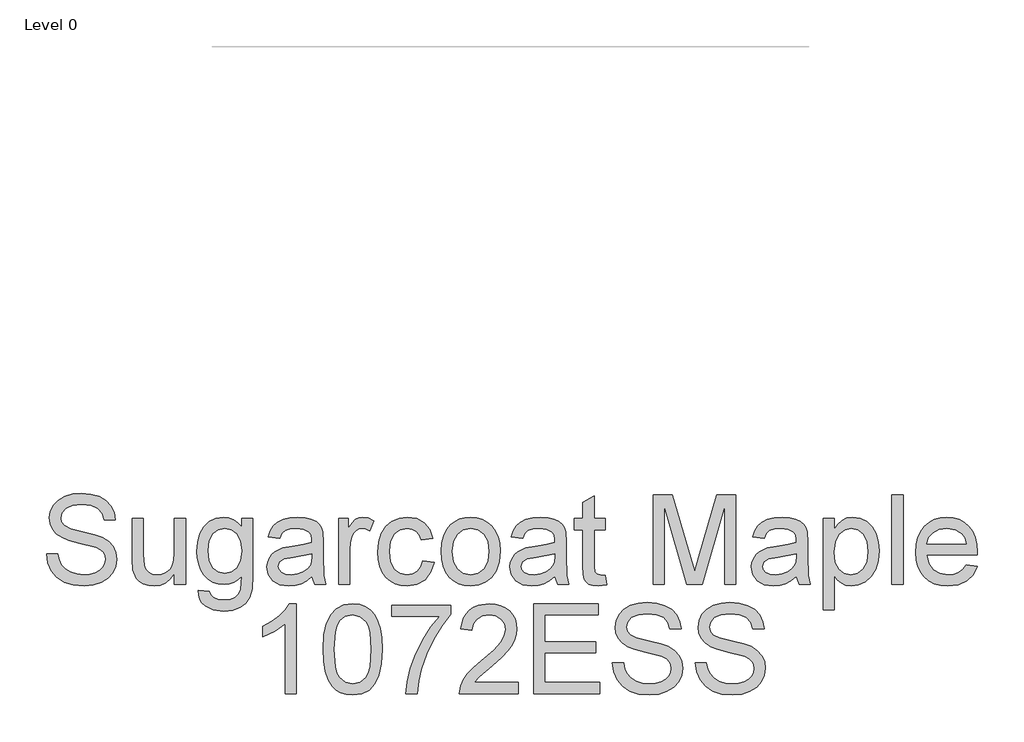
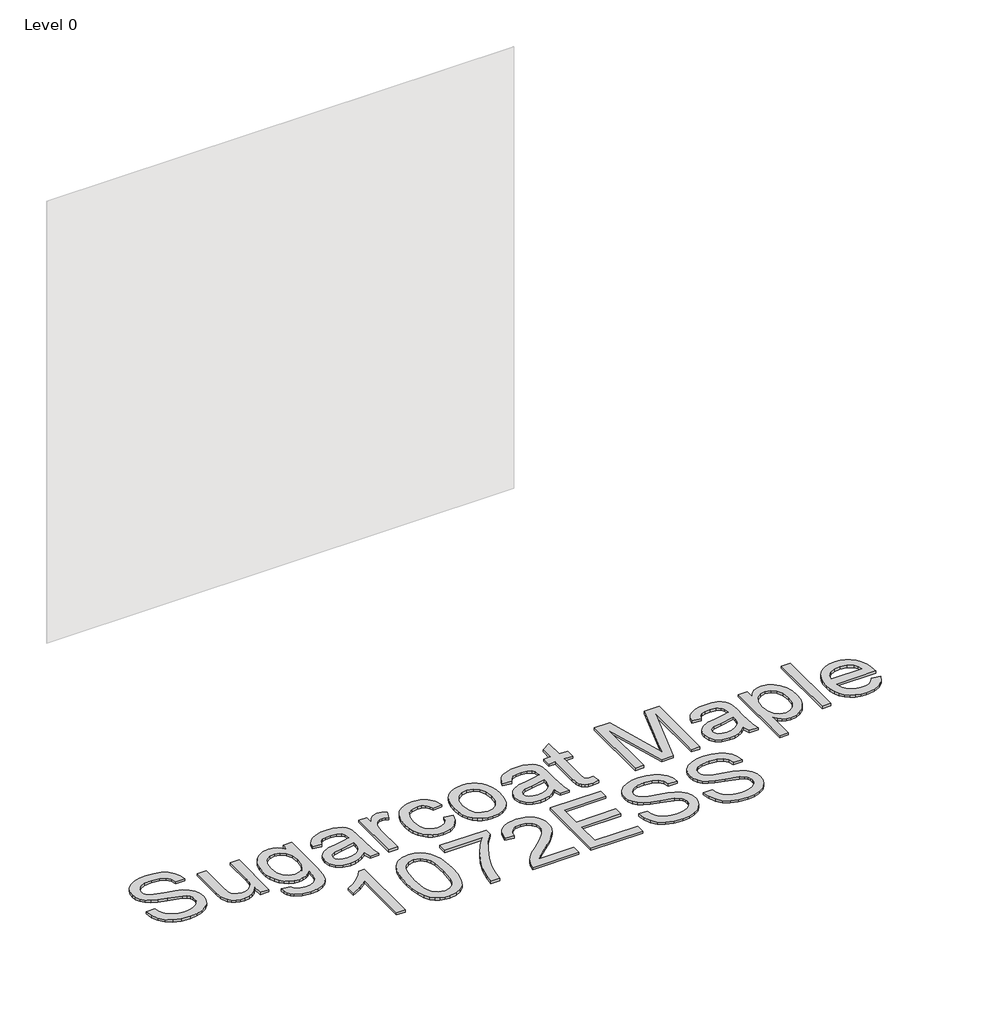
# One storey, part 41 of 43: 1 proxy.
"""IFC4 building model written with IfcOpenShell, lengths in millimetres."""

from ifc_helpers import new_model, si_unit, origin, origin_with_axes, place, context, project, spatial, polyline, outline, extrude, element, save

model = new_model("IFC4")

# Units and contexts
model_context = context("Model", 3, world=origin())
ifc_project = project(units=[si_unit("LENGTHUNIT", "METRE", prefix="MILLI")], contexts=[model_context])

# Site, building, storey
site = spatial("IfcSite", under=ifc_project)
building = spatial("IfcBuilding", under=site)
storey = spatial("IfcBuildingStorey", under=building, Name="Level 0", Elevation=0.0)

# Proxy
placement = place(None, origin())
element("IfcBuildingElementProxy", 1, Name="300mm Arial", ObjectType="300mm Arial", at=placement, inside=storey, context=model_context, shape_type="SweptSolid", body=[
    extrude(outline(polyline([(35993.0539513, -6900.2649241), (36030.7250676, -6900.2649241), (36035.047681, -6921.1698185), (36042.8651734, -6937.9728286), (36055.0604616, -6951.308551), (36072.5164623, -6961.8115819), (36093.853618, -6968.6265959), (36117.6923713, -6970.8982672), (36138.6800391, -6969.1784189), (36157.0557447, -6964.0188739), (36171.9457685, -6955.8518936), (36182.4763906, -6945.1097394), (36188.7395816, -6932.7764955), (36190.8273119, -6919.8362463), (36189.2638134, -6907.2270909), (36184.573318, -6896.3285868), (36175.0451743, -6887.0303694), (36158.9687311, -6879.222074), (36104.1175256, -6864.837888), (36068.1110754, -6855.3189414), (36045.0724654, -6846.2598472), (36026.3196807, -6833.5863125), (36013.0299436, -6818.2272392), (36005.1112837, -6800.5137211), (36002.4717304, -6780.7768521), (36005.7366831, -6758.7131294), (36015.5315412, -6738.1393289), (36031.5987873, -6720.7017223), (36053.6809041, -6708.0465817), (36080.1868019, -6700.3486509), (36109.525391, -6697.782674), (36141.3103954, -6700.4682126), (36169.1222742, -6708.5248283), (36191.9677461, -6721.7869742), (36208.8535297, -6740.0891034), (36219.5405016, -6762.2907818), (36223.7895387, -6787.2515752), (36186.1184224, -6787.2515752), (36179.2022409, -6764.7739853), (36164.7812666, -6748.5503893), (36142.2484944, -6738.7279401), (36110.996919, -6735.4537903), (36079.0095795, -6738.6911519), (36057.0654185, -6748.4032365), (36044.3734896, -6762.695452), (36040.1428467, -6779.6732061), (36043.1410849, -6794.1493626), (36052.1357997, -6805.7928278), (36073.399379, -6816.2038882), (36113.6456693, -6826.8356779), (36155.1795466, -6836.9340387), (36180.3058868, -6845.7448125), (36201.7809983, -6859.4116286), (36216.7629926, -6876.2790181), (36225.5645693, -6896.1630399), (36228.4984282, -6918.8797531), (36225.1231109, -6942.102304), (36214.997159, -6963.9452975), (36198.5344397, -6982.7440675), (36176.1488203, -6996.8339479), (36149.2290553, -7005.6355246), (36119.1638992, -7008.5693835), (36082.2561381, -7005.4055984), (36051.8782823, -6995.9142429), (36027.6808441, -6980.0585289), (36009.3143355, -6957.8016682), (35997.5237175, -6930.6887651), (35993.0539513, -6900.2649241)])), origin_with_axes(), (0.0, 0.0, 1.0), 10.0),
    extrude(outline(polyline([(36421.5628993, -7003.860494), (36421.5628993, -6965.8214957), (36407.9328714, -6984.5236966), (36392.0587633, -6997.8824116), (36373.940575, -7005.8976405), (36353.5783066, -7008.5693835), (36335.2301921, -7006.6931853), (36318.1512704, -7001.0645908), (36303.8222667, -6992.6033049), (36293.723906, -6982.2290327), (36282.5035051, -6954.4907302), (36280.2962131, -6919.4683643), (36280.2962131, -6782.5426857), (36317.9673294, -6782.5426857), (36317.9673294, -6901.7364521), (36320.2481978, -6940.1433324), (36325.7388366, -6952.9548229), (36335.1474186, -6962.6944987), (36347.8485445, -6968.8473251), (36363.2168148, -6970.8982672), (36379.468002, -6968.8013398), (36394.6707254, -6962.5105577), (36407.2063044, -6952.605335), (36415.4560582, -6939.6650858), (36420.036189, -6921.9423707), (36421.5628993, -6897.6897502), (36421.5628993, -6782.5426857), (36459.2340156, -6782.5426857), (36459.2340156, -7003.860494), (36421.5628993, -7003.860494)])), origin_with_axes(), (0.0, 0.0, 1.0), 10.0),
    extrude(outline(polyline([(36501.6140214, -7022.6960521), (36539.2851377, -7027.4049417), (36543.4422043, -7039.1771655), (36551.49882, -7047.2705694), (36567.3361399, -7053.5613515), (36588.0662903, -7055.6582789), (36610.1759982, -7053.28544), (36626.6203234, -7046.1669234), (36638.0246652, -7034.7625816), (36645.0144231, -7019.532267), (36647.5895971, -6975.6071568), (36635.0540181, -6987.9679918), (36621.0653053, -6996.7971597), (36605.6234585, -7002.0946604), (36588.7284779, -7003.860494), (36568.0742031, -7001.8049533), (36549.8893362, -6995.6383314), (36534.1738773, -6985.3606281), (36520.9278262, -6970.9718436), (36510.4178974, -6953.708981), (36502.9108055, -6934.8090435), (36498.4065503, -6914.2720311), (36496.9051319, -6892.0979438), (36499.5998675, -6861.6832999), (36507.6840743, -6833.7150712), (36520.8726439, -6810.0142737), (36538.8804675, -6792.4019232), (36561.091343, -6781.4758279), (36586.8890679, -6777.8337961), (36604.506017, -6779.8939353), (36620.4950882, -6786.0743528), (36634.8562816, -6796.3750487), (36647.5895971, -6810.7960229), (36647.5895971, -6782.5426857), (36685.2607134, -6782.5426857), (36685.2607134, -6973.620594), (36682.6855395, -7017.7388422), (36674.9600176, -7046.7923228), (36661.6518864, -7066.0601423), (36642.3288846, -7080.8214074), (36617.4140765, -7090.2023982), (36587.3305263, -7093.3293952), (36552.2805692, -7088.9240083), (36524.6802225, -7075.7078476), (36514.2852569, -7065.7865301), (36506.9759015, -7053.644125), (36502.7521564, -7039.2806323), (36501.6140214, -7022.6960521)]), holes=[polyline([(36534.5762482, -6889.5227699), (36538.595359, -6924.0760863), (36550.6526914, -6947.8320661), (36568.7800767, -6961.6000498), (36591.0093463, -6966.1893777), (36613.0730689, -6961.6276409), (36631.2924247, -6947.9424307), (36643.515304, -6924.4899535), (36647.5895971, -6890.6264159), (36643.3957424, -6857.9676917), (36630.8141781, -6834.4508352), (36612.3281079, -6820.2413931), (36590.4207351, -6815.5049125), (36568.9088354, -6820.1678167), (36550.8734206, -6834.1565296), (36538.6505413, -6857.3238983), (36534.5762482, -6889.5227699)])]), origin_with_axes(), (0.0, 0.0, 1.0), 10.0),
    extrude(outline(polyline([(36883.034074, -6975.6071568), (36865.0354474, -6991.0398064), (36846.5033919, -7001.1381672), (36827.0148432, -7006.7115794), (36806.146737, -7008.5693835), (36774.6652353, -7004.0996173), (36751.4426844, -6990.6903186), (36737.1228777, -6970.3280501), (36732.3496088, -6944.9993748), (36734.1522306, -6929.3827841), (36739.5600959, -6915.2009331), (36747.9018202, -6903.0608273), (36758.5060187, -6893.5694718), (36784.8831577, -6881.2086368), (36817.4775025, -6875.5432541), (36855.9947474, -6869.5835657), (36882.8133448, -6862.5938078), (36883.034074, -6854.2060983), (36880.440506, -6837.3938912), (36872.6598018, -6826.3942195), (36855.2589834, -6818.2272392), (36831.0155599, -6815.5049125), (36808.5747582, -6817.3167313), (36792.9029852, -6822.7521878), (36782.2160133, -6832.8045633), (36774.7296146, -6848.4671392), (36737.0584983, -6843.7582497), (36743.5976008, -6823.156858), (36753.3556707, -6806.9700502), (36767.243216, -6794.590821), (36786.1707447, -6785.4121652), (36809.3197192, -6779.7283884), (36835.8716022, -6777.8337961), (36861.3382334, -6779.5076592), (36881.5257578, -6784.5292485), (36896.7468754, -6792.0800264), (36907.3142857, -6801.3414556), (36914.3224377, -6812.7917827), (36918.8657804, -6826.9092543), (36920.7051903, -6859.8714811), (36920.7051903, -6906.7396473), (36922.6181767, -6972.1858542), (36930.1229694, -7003.860494), (36892.4518531, -7003.860494), (36883.034074, -6975.6071568)]), holes=[polyline([(36883.034074, -6900.2649241), (36822.2599684, -6911.8164188), (36789.8495647, -6917.9232599), (36775.171073, -6927.8560738), (36770.0207251, -6942.3506244), (36772.8258253, -6953.5526311), (36781.241126, -6962.7312869), (36795.082686, -6968.8565221), (36814.1665645, -6970.8982672), (36834.4000743, -6968.64499), (36852.2791392, -6961.8851583), (36866.7736898, -6951.9247533), (36876.8536565, -6940.069756), (36881.3234228, -6927.8560738), (36882.8133448, -6910.933502), (36883.034074, -6900.2649241)])]), origin_with_axes(), (0.0, 0.0, 1.0), 10.0),
    extrude(outline(polyline([(36972.5029753, -7003.860494), (36972.5029753, -6782.5426857), (37005.465202, -6782.5426857), (37005.465202, -6815.2841833), (37017.6420961, -6796.3014723), (37028.8624969, -6785.1178596), (37040.119686, -6779.654812), (37052.4069446, -6777.8337961), (37071.1689264, -6780.7400639), (37090.2252137, -6789.4588672), (37077.6436495, -6823.2304343), (37064.3998977, -6817.4362929), (37051.1561458, -6815.5049125), (37039.9081538, -6817.3627165), (37029.8557783, -6822.9361288), (37021.7347833, -6831.8020848), (37016.2809327, -6843.5375205), (37011.7008018, -6864.5803706), (37010.1740916, -6887.5362071), (37010.1740916, -7003.860494), (36972.5029753, -7003.860494)])), origin_with_axes(), (0.0, 0.0, 1.0), 10.0),
    extrude(outline(polyline([(37255.0363476, -6923.8093718), (37292.7074639, -6928.5182614), (37282.2044329, -6962.0231141), (37262.4675639, -6987.3425924), (37235.3546608, -7003.2626857), (37202.7235278, -7008.5693835), (37181.595605, -7006.7184772), (37162.6519815, -7001.1657584), (37145.8926574, -6991.9112269), (37131.3176326, -6978.9548829), (37119.5201168, -6962.5404481), (37111.0933199, -6942.9116444), (37106.0372417, -6920.0684718), (37104.3518823, -6894.0109302), (37107.2305589, -6860.4876834), (37115.8665888, -6831.4342028), (37130.3979276, -6807.9725286), (37150.9625311, -6791.2247008), (37175.5646395, -6781.1815223), (37202.208493, -6777.8337961), (37234.0394827, -6782.4323211), (37259.4877197, -6796.2278959), (37277.7438637, -6818.4847566), (37287.9985743, -6848.4671392), (37250.327458, -6853.1760288), (37243.49405, -6836.7409006), (37232.8530632, -6824.9594797), (37218.9931091, -6817.8685543), (37202.5027986, -6815.5049125), (37178.1582076, -6820.1586197), (37158.8352058, -6834.1197414), (37146.2260504, -6858.1424357), (37142.0229986, -6892.9808606), (37146.1340799, -6928.2883351), (37158.4673238, -6952.3938029), (37177.4408377, -6966.2721511), (37201.4727291, -6970.8982672), (37220.9796718, -6968.0103936), (37236.9733416, -6959.3467726), (37248.6076097, -6944.6866751), (37255.0363476, -6923.8093718)])), origin_with_axes(), (0.0, 0.0, 1.0), 10.0),
    extrude(outline(polyline([(37316.2519115, -6893.2015898), (37318.2890581, -6864.5389839), (37324.4004977, -6839.8403064), (37334.5862305, -6819.1055575), (37348.8462563, -6802.334737), (37363.2028512, -6791.6155754), (37379.0493681, -6783.9590314), (37396.3858071, -6779.3651049), (37415.2121683, -6777.8337961), (37435.9952017, -6779.698498), (37454.7870739, -6785.2926036), (37471.5877847, -6794.6161129), (37486.3973343, -6807.669026), (37498.4845571, -6824.0098843), (37507.1182877, -6843.1972296), (37512.298526, -6865.2310619), (37514.0252722, -6890.1113811), (37510.9718516, -6928.1687735), (37501.8115899, -6957.1394806), (37486.8112016, -6978.8353213), (37466.237401, -6995.0681143), (37441.8008395, -7005.1940662), (37415.2121683, -7008.5693835), (37394.1256321, -7006.7115794), (37375.159016, -7001.1381672), (37358.3123199, -6991.8491468), (37343.5855438, -6978.8445183), (37331.6270797, -6962.3450108), (37323.0853196, -6942.5713536), (37317.9602636, -6919.5235466), (37316.2519115, -6893.2015898)]), holes=[polyline([(37353.9230279, -6893.1280134), (37358.2824295, -6927.2214773), (37371.3606344, -6951.5108861), (37391.0423212, -6966.0514219), (37415.2121683, -6970.8982672), (37439.2716507, -6966.0238308), (37458.9165493, -6951.4005215), (37471.9947542, -6926.789216), (37476.3541558, -6891.950791), (37471.9671631, -6858.8506085), (37458.8061847, -6834.8922936), (37439.133695, -6820.3517577), (37415.2121683, -6815.5049125), (37391.0423212, -6820.3333636), (37371.3606344, -6834.8187172), (37358.2824295, -6859.0529436), (37353.9230279, -6893.1280134)])]), origin_with_axes(), (0.0, 0.0, 1.0), 10.0),
    extrude(outline(polyline([(37697.6719641, -6975.6071568), (37679.6733375, -6991.0398064), (37661.141282, -7001.1381672), (37641.6527333, -7006.7115794), (37620.7846272, -7008.5693835), (37589.3031254, -7004.0996173), (37566.0805745, -6990.6903186), (37551.7607678, -6970.3280501), (37546.9874989, -6944.9993748), (37548.7901207, -6929.3827841), (37554.197986, -6915.2009331), (37562.5397103, -6903.0608273), (37573.1439088, -6893.5694718), (37599.5210478, -6881.2086368), (37632.1153926, -6875.5432541), (37670.6326375, -6869.5835657), (37697.451235, -6862.5938078), (37697.6719641, -6854.2060983), (37695.0783961, -6837.3938912), (37687.2976919, -6826.3942195), (37669.8968735, -6818.2272392), (37645.65345, -6815.5049125), (37623.2126483, -6817.3167313), (37607.5408753, -6822.7521878), (37596.8539034, -6832.8045633), (37589.3675048, -6848.4671392), (37551.6963885, -6843.7582497), (37558.2354909, -6823.156858), (37567.9935608, -6806.9700502), (37581.8811062, -6794.590821), (37600.8086348, -6785.4121652), (37623.9576094, -6779.7283884), (37650.5094924, -6777.8337961), (37675.9761235, -6779.5076592), (37696.163648, -6784.5292485), (37711.3847655, -6792.0800264), (37721.9521758, -6801.3414556), (37728.9603278, -6812.7917827), (37733.5036705, -6826.9092543), (37735.3430805, -6859.8714811), (37735.3430805, -6906.7396473), (37737.2560668, -6972.1858542), (37744.7608595, -7003.860494), (37707.0897432, -7003.860494), (37697.6719641, -6975.6071568)]), holes=[polyline([(37697.6719641, -6900.2649241), (37636.8978585, -6911.8164188), (37604.4874548, -6917.9232599), (37589.8089632, -6927.8560738), (37584.6586152, -6942.3506244), (37587.4637154, -6953.5526311), (37595.8790161, -6962.7312869), (37609.7205762, -6968.8565221), (37628.8044547, -6970.8982672), (37649.0379644, -6968.64499), (37666.9170294, -6961.8851583), (37681.41158, -6951.9247533), (37691.4915466, -6940.069756), (37695.9613129, -6927.8560738), (37697.451235, -6910.933502), (37697.6719641, -6900.2649241)])]), origin_with_axes(), (0.0, 0.0, 1.0), 10.0),
    extrude(outline(polyline([(37867.1919875, -6972.4433716), (37871.9008771, -7004.96414), (37843.7211162, -7008.5693835), (37825.6397162, -7007.005885), (37812.156841, -7002.3153896), (37802.6286974, -6995.0865084), (37796.4114917, -6985.9078526), (37792.9901891, -6970.1441091), (37791.8497549, -6943.1599648), (37791.8497549, -6820.213802), (37763.5964177, -6820.213802), (37763.5964177, -6782.5426857), (37791.8497549, -6782.5426857), (37791.8497549, -6728.758338), (37829.5208712, -6706.6118419), (37829.5208712, -6782.5426857), (37867.1919875, -6782.5426857), (37867.1919875, -6820.213802), (37829.5208712, -6820.213802), (37829.5208712, -6942.0563188), (37831.507434, -6961.4804881), (37837.9453689, -6968.3598814), (37850.7844505, -6970.8982672), (37867.1919875, -6972.4433716)])), origin_with_axes(), (0.0, 0.0, 1.0), 10.0),
    extrude(outline(polyline([(38027.2942318, -7003.860494), (38027.2942318, -6702.4915635), (38092.1150394, -6702.4915635), (38153.7720618, -6914.9066275), (38166.2064732, -6959.2731962), (38179.6709542, -6911.2278076), (38240.297907, -6702.4915635), (38305.1187146, -6702.4915635), (38305.1187146, -7003.860494), (38267.4475983, -7003.860494), (38267.4475983, -6740.1626798), (38191.7374837, -7003.860494), (38140.6754627, -7003.860494), (38064.9653481, -6740.1626798), (38064.9653481, -7003.860494), (38027.2942318, -7003.860494)])), origin_with_axes(), (0.0, 0.0, 1.0), 10.0),
    extrude(outline(polyline([(38507.6009647, -6975.6071568), (38489.6023381, -6991.0398064), (38471.0702826, -7001.1381672), (38451.5817339, -7006.7115794), (38430.7136277, -7008.5693835), (38399.232126, -7004.0996173), (38376.0095751, -6990.6903186), (38361.6897684, -6970.3280501), (38356.9164995, -6944.9993748), (38358.7191213, -6929.3827841), (38364.1269866, -6915.2009331), (38372.4687109, -6903.0608273), (38383.0729094, -6893.5694718), (38409.4500484, -6881.2086368), (38442.0443932, -6875.5432541), (38480.5616381, -6869.5835657), (38507.3802355, -6862.5938078), (38507.6009647, -6854.2060983), (38505.0073967, -6837.3938912), (38497.2266925, -6826.3942195), (38479.8258741, -6818.2272392), (38455.5824506, -6815.5049125), (38433.1416489, -6817.3167313), (38417.4698759, -6822.7521878), (38406.782904, -6832.8045633), (38399.2965053, -6848.4671392), (38361.625389, -6843.7582497), (38368.1644915, -6823.156858), (38377.9225614, -6806.9700502), (38391.8101067, -6794.590821), (38410.7376354, -6785.4121652), (38433.8866099, -6779.7283884), (38460.4384929, -6777.8337961), (38485.9051241, -6779.5076592), (38506.0926485, -6784.5292485), (38521.3137661, -6792.0800264), (38531.8811764, -6801.3414556), (38538.8893284, -6812.7917827), (38543.4326711, -6826.9092543), (38545.272081, -6859.8714811), (38545.272081, -6906.7396473), (38547.1850674, -6972.1858542), (38554.6898601, -7003.860494), (38517.0187438, -7003.860494), (38507.6009647, -6975.6071568)]), holes=[polyline([(38507.6009647, -6900.2649241), (38446.8268591, -6911.8164188), (38414.4164554, -6917.9232599), (38399.7379637, -6927.8560738), (38394.5876158, -6942.3506244), (38397.392716, -6953.5526311), (38405.8080167, -6962.7312869), (38419.6495767, -6968.8565221), (38438.7334552, -6970.8982672), (38458.966965, -6968.64499), (38476.8460299, -6961.8851583), (38491.3405805, -6951.9247533), (38501.4205472, -6940.069756), (38505.8903135, -6927.8560738), (38507.3802355, -6910.933502), (38507.6009647, -6900.2649241)])]), origin_with_axes(), (0.0, 0.0, 1.0), 10.0),
    extrude(outline(polyline([(38597.069866, -7088.6205057), (38597.069866, -6782.5426857), (38634.7409823, -6782.5426857), (38634.7409823, -6819.478038), (38647.0282409, -6801.2586822), (38660.7870275, -6788.2448566), (38676.8266825, -6780.4365613), (38695.9565463, -6777.8337961), (38721.4323744, -6781.4758279), (38743.7076292, -6792.4019232), (38761.8442116, -6809.9498943), (38774.9040224, -6833.4575538), (38782.7950912, -6861.2142504), (38785.4254475, -6891.5093327), (38782.4548004, -6923.7265984), (38773.542859, -6952.5409557), (38758.974732, -6976.4900735), (38739.0355279, -6994.1116211), (38715.8129769, -7004.9549429), (38691.3948095, -7008.5693835), (38674.0767646, -7006.1505594), (38658.6165237, -6998.894087), (38645.381969, -6987.9404006), (38634.7409823, -6974.4299344), (38634.7409823, -7088.6205057), (38597.069866, -7088.6205057)]), holes=[polyline([(38634.7409823, -6894.9674234), (38638.8152754, -6928.7389906), (38651.0381546, -6952.3570147), (38669.0735695, -6966.2629541), (38690.5854691, -6970.8982672), (38712.4468567, -6966.0974072), (38730.942124, -6951.6948271), (38743.5512794, -6927.2122803), (38747.7543312, -6892.1715202), (38743.6524469, -6858.5838941), (38731.3467942, -6834.6347762), (38713.3389705, -6820.2873784), (38692.1305735, -6815.5049125), (38670.839403, -6820.590881), (38652.1418006, -6835.8487868), (38639.0911869, -6860.8003831), (38634.7409823, -6894.9674234)])]), origin_with_axes(), (0.0, 0.0, 1.0), 10.0),
    extrude(outline(polyline([(38827.8054533, -7003.860494), (38827.8054533, -6702.4915635), (38865.4765696, -6702.4915635), (38865.4765696, -7003.860494), (38827.8054533, -7003.860494)])), origin_with_axes(), (0.0, 0.0, 1.0), 10.0),
    extrude(outline(polyline([(39076.9351405, -6937.9360404), (39113.8704928, -6942.64493), (39100.5623616, -6970.4752029), (39079.3263734, -6991.2789297), (39050.6407749, -7004.2467701), (39014.9838125, -7008.5693835), (38991.6095102, -7006.7046817), (38970.7827908, -7001.1105761), (38952.5036541, -6991.7870668), (38936.7721003, -6978.7341537), (38924.1215582, -6962.3151204), (38915.0854567, -6942.8932503), (38909.6637958, -6920.4685435), (38907.8565755, -6895.0409998), (38909.6821899, -6868.7512327), (38915.1590331, -6845.5792656), (38924.2871051, -6825.5250983), (38937.0664059, -6808.5887309), (38952.756573, -6795.133447), (38970.6172439, -6785.5225298), (38990.6484185, -6779.7559796), (39012.8500969, -6777.8337961), (39034.3367047, -6779.751381), (39053.7677718, -6785.5041357), (39071.1432983, -6795.0920602), (39086.4632841, -6808.5151545), (39098.9689727, -6825.4147337), (39107.9016074, -6845.4321128), (39113.2611882, -6868.5672917), (39115.0477152, -6894.8202706), (39114.826986, -6904.9738137), (38945.5276918, -6904.9738137), (38952.0484002, -6933.1719686), (38967.1959413, -6953.902119), (38989.0573289, -6966.6492302), (39015.7195765, -6970.8982672), (39035.7691452, -6968.9300985), (39052.6549288, -6963.0255925), (39066.3769272, -6952.8168672), (39076.9351405, -6937.9360404)]), holes=[polyline([(38945.5276918, -6867.3026974), (39077.3765989, -6867.3026974), (39072.2814332, -6847.4002814), (39062.2934371, -6833.1632482), (39040.3308819, -6819.9194964), (39012.7029441, -6815.5049125), (38987.3098894, -6819.0273826), (38966.3130245, -6829.5947929), (38951.7173064, -6846.0667092), (38945.5276918, -6867.3026974)])]), origin_with_axes(), (0.0, 0.0, 1.0), 10.0),
    extrude(outline(polyline([(36831.2362891, -7369.7849475), (36793.5651728, -7369.7849475), (36793.5651728, -7134.9290818), (36757.8806193, -7160.3497277), (36718.2229402, -7179.3692268), (36718.2229402, -7143.7582497), (36747.8098497, -7127.6634124), (36773.4420277, -7108.5151545), (36793.6479463, -7088.1528861), (36806.9560774, -7068.4160171), (36831.2362891, -7068.4160171), (36831.2362891, -7369.7849475)])), origin_with_axes(), (0.0, 0.0, 1.0), 10.0),
    extrude(outline(polyline([(36920.7051903, -7221.5285035), (36923.4735023, -7173.2899768), (36931.7784384, -7134.8187172), (36945.537225, -7105.5261133), (36964.6670888, -7084.8235541), (36989.3059854, -7072.5179013), (37019.5918706, -7068.4160171), (37042.8052245, -7070.8440382), (37063.5905573, -7078.1281017), (37080.9729815, -7089.983099), (37093.9776101, -7106.1239216), (37103.8000593, -7126.4126136), (37111.6359458, -7150.7112194), (37116.7678997, -7181.5673217), (37118.4785509, -7221.5285035), (37115.7378301, -7269.4911186), (37107.5156675, -7307.8704077), (37093.8396543, -7337.1906027), (37074.7373817, -7357.9759355), (37050.0433028, -7370.3643617), (37019.5918706, -7374.4938371), (36998.8433261, -7372.7004123), (36980.4492264, -7367.3201381), (36964.4095714, -7358.3530145), (36950.7243611, -7345.7990414), (36937.5909739, -7323.1053209), (36928.209983, -7294.828991), (36922.5813885, -7260.9700519), (36920.7051903, -7221.5285035)]), holes=[polyline([(36958.3763066, -7221.4549271), (36962.7908906, -7280.7115194), (36968.3091205, -7300.9795181), (36976.0346424, -7315.0073184), (36995.7531174, -7331.3688702), (37019.5918706, -7336.8227207), (37043.4306239, -7331.3504761), (37063.1490989, -7314.933742), (37070.8746208, -7300.8829491), (37076.3928507, -7280.6195489), (37080.8074346, -7221.4549271), (37076.5400035, -7163.5319069), (37071.2057146, -7143.3305869), (37063.7377101, -7128.9693935), (37044.0560233, -7111.8076984), (37019.1504122, -7106.0871334), (36995.5691764, -7111.1271167), (36976.6232536, -7126.2470667), (36968.6402143, -7141.8820515), (36962.9380434, -7162.9616898), (36958.3763066, -7221.4549271)])]), origin_with_axes(), (0.0, 0.0, 1.0), 10.0),
    extrude(outline(polyline([(37151.4407777, -7110.7960229), (37151.4407777, -7073.1249066), (37349.2141383, -7073.1249066), (37349.2141383, -7103.5855358), (37321.0251804, -7139.2608923), (37293.1121341, -7184.6299393), (37268.4916315, -7235.5540045), (37250.1803052, -7287.8944154), (37241.2039845, -7327.0554538), (37236.2007894, -7369.7849475), (37198.5296731, -7369.7849475), (37202.6039662, -7330.9550029), (37213.5024703, -7284.8042066), (37230.9308798, -7235.8850983), (37254.5948892, -7188.7502177), (37282.222827, -7146.1402856), (37311.543022, -7110.7960229), (37151.4407777, -7110.7960229)])), origin_with_axes(), (0.0, 0.0, 1.0), 10.0),
    extrude(outline(polyline([(37575.2408362, -7332.1138312), (37575.2408362, -7369.7849475), (37377.4674755, -7369.7849475), (37381.5141775, -7343.8124787), (37390.8031979, -7323.5145896), (37404.3964376, -7303.8237058), (37424.0597302, -7283.213117), (37451.5589094, -7260.156113), (37492.2098698, -7224.0484951), (37516.6004461, -7197.3954446), (37528.7957343, -7175.7639833), (37532.8608303, -7154.7211331), (37529.0256605, -7135.8579838), (37517.5201511, -7120.1770138), (37499.8342242, -7109.6096035), (37477.4578018, -7106.0871334), (37453.9593394, -7109.52683), (37435.7031954, -7119.84592), (37423.9217745, -7136.2350629), (37419.8474814, -7157.8849183), (37382.1763651, -7153.1760288), (37391.3090356, -7116.7373171), (37399.8553942, -7102.2013798), (37411.0551017, -7090.1210548), (37424.6506407, -7080.6251008), (37440.3844938, -7073.8422765), (37478.2671422, -7068.4160171), (37498.456966, -7069.9243332), (37516.4257022, -7074.4492818), (37532.1733508, -7081.9908627), (37545.6999119, -7092.549076), (37556.5639271, -7105.3421723), (37564.3239379, -7119.5884026), (37568.9799444, -7135.2877667), (37570.5319466, -7152.4402648), (37568.8580835, -7170.4572855), (37563.8364943, -7188.1616065), (37554.924553, -7206.1694302), (37541.5796336, -7225.0969588), (37520.3068572, -7247.6941104), (37487.6113449, -7276.7108027), (37444.2748459, -7312.9471793), (37427.2786977, -7332.1138312), (37575.2408362, -7332.1138312)])), origin_with_axes(), (0.0, 0.0, 1.0), 10.0),
    extrude(outline(polyline([(37627.0386211, -7369.7849475), (37627.0386211, -7068.4160171), (37843.6475398, -7068.4160171), (37843.6475398, -7106.0871334), (37664.7097374, -7106.0871334), (37664.7097374, -7195.5560346), (37834.2297608, -7195.5560346), (37834.2297608, -7233.2271509), (37664.7097374, -7233.2271509), (37664.7097374, -7332.1138312), (37848.3564294, -7332.1138312), (37848.3564294, -7369.7849475), (37627.0386211, -7369.7849475)])), origin_with_axes(), (0.0, 0.0, 1.0), 10.0),
    extrude(outline(polyline([(37890.7364352, -7266.1893777), (37928.4075515, -7266.1893777), (37932.730165, -7287.0942721), (37940.5476574, -7303.8972822), (37952.7429455, -7317.2330045), (37970.1989462, -7327.7360355), (37991.5361019, -7334.5510494), (38015.3748552, -7336.8227207), (38036.362523, -7335.1028724), (38054.7382287, -7329.9433274), (38069.6282524, -7321.7763471), (38080.1588745, -7311.0341929), (38086.4220655, -7298.700949), (38088.5097958, -7285.7606998), (38086.9462973, -7273.1515444), (38082.2558019, -7262.2530403), (38072.7276582, -7252.9548229), (38056.651215, -7245.1465276), (38001.8000096, -7230.7623415), (37965.7935593, -7221.2433949), (37942.7549493, -7212.1843008), (37924.0021646, -7199.510766), (37910.7124276, -7184.1516928), (37902.7937676, -7166.4381747), (37900.1542143, -7146.7013056), (37903.419167, -7124.637583), (37913.2140251, -7104.0637824), (37929.2812713, -7086.6261758), (37951.363388, -7073.9710352), (37977.8692858, -7066.2731044), (38007.2078749, -7063.7071275), (38038.9928793, -7066.3926661), (38066.8047581, -7074.4492818), (38089.65023, -7087.7114277), (38106.5360136, -7106.013557), (38117.2229855, -7128.2152354), (38121.4720226, -7153.1760288), (38083.8009063, -7153.1760288), (38076.8847248, -7130.6984389), (38062.4637506, -7114.4748429), (38039.9309784, -7104.6523936), (38008.6794029, -7101.3782438), (37976.6920634, -7104.6156054), (37954.7479024, -7114.3276901), (37942.0559735, -7128.6199056), (37937.8253306, -7145.5976597), (37940.8235689, -7160.0738162), (37949.8182836, -7171.7172813), (37971.081863, -7182.1283418), (38011.3281532, -7192.7601314), (38052.8620305, -7202.8584922), (38077.9883708, -7211.669266), (38099.4634822, -7225.3360821), (38114.4454765, -7242.2034716), (38123.2470532, -7262.0874934), (38126.1809121, -7284.8042066), (38122.8055948, -7308.0267576), (38112.6796429, -7329.869751), (38096.2169236, -7348.668521), (38073.8313042, -7362.7584014), (38046.9115392, -7371.5599781), (38016.8463832, -7374.4938371), (37979.938622, -7371.3300519), (37949.5607662, -7361.8386964), (37925.363328, -7345.9829824), (37906.9968194, -7323.7261217), (37895.2062015, -7296.6132187), (37890.7364352, -7266.1893777)])), origin_with_axes(), (0.0, 0.0, 1.0), 10.0),
    extrude(outline(polyline([(38168.560918, -7266.1893777), (38206.2320343, -7266.1893777), (38210.5546477, -7287.0942721), (38218.3721401, -7303.8972822), (38230.5674283, -7317.2330045), (38248.0234289, -7327.7360355), (38269.3605847, -7334.5510494), (38293.1993379, -7336.8227207), (38314.1870058, -7335.1028724), (38332.5627114, -7329.9433274), (38347.4527352, -7321.7763471), (38357.9833573, -7311.0341929), (38364.2465483, -7298.700949), (38366.3342786, -7285.7606998), (38364.7707801, -7273.1515444), (38360.0802847, -7262.2530403), (38350.552141, -7252.9548229), (38334.4756978, -7245.1465276), (38279.6244923, -7230.7623415), (38243.618042, -7221.2433949), (38220.5794321, -7212.1843008), (38201.8266474, -7199.510766), (38188.5369103, -7184.1516928), (38180.6182504, -7166.4381747), (38177.9786971, -7146.7013056), (38181.2436498, -7124.637583), (38191.0385079, -7104.0637824), (38207.105754, -7086.6261758), (38229.1878708, -7073.9710352), (38255.6937685, -7066.2731044), (38285.0323576, -7063.7071275), (38316.817362, -7066.3926661), (38344.6292409, -7074.4492818), (38367.4747128, -7087.7114277), (38384.3604963, -7106.013557), (38395.0474683, -7128.2152354), (38399.2965053, -7153.1760288), (38361.625389, -7153.1760288), (38354.7092075, -7130.6984389), (38340.2882333, -7114.4748429), (38317.7554611, -7104.6523936), (38286.5038856, -7101.3782438), (38254.5165461, -7104.6156054), (38232.5723851, -7114.3276901), (38219.8804563, -7128.6199056), (38215.6498134, -7145.5976597), (38218.6480516, -7160.0738162), (38227.6427664, -7171.7172813), (38248.9063457, -7182.1283418), (38289.152636, -7192.7601314), (38330.6865132, -7202.8584922), (38355.8128535, -7211.669266), (38377.287965, -7225.3360821), (38392.2699592, -7242.2034716), (38401.071536, -7262.0874934), (38404.0053949, -7284.8042066), (38400.6300776, -7308.0267576), (38390.5041257, -7329.869751), (38374.0414064, -7348.668521), (38351.655787, -7362.7584014), (38324.736022, -7371.5599781), (38294.6708659, -7374.4938371), (38257.7631048, -7371.3300519), (38227.385249, -7361.8386964), (38203.1878108, -7345.9829824), (38184.8213022, -7323.7261217), (38173.0306842, -7296.6132187), (38168.560918, -7266.1893777)])), origin_with_axes(), (0.0, 0.0, 1.0), 10.0),
])

save(model, "model.ifc")
